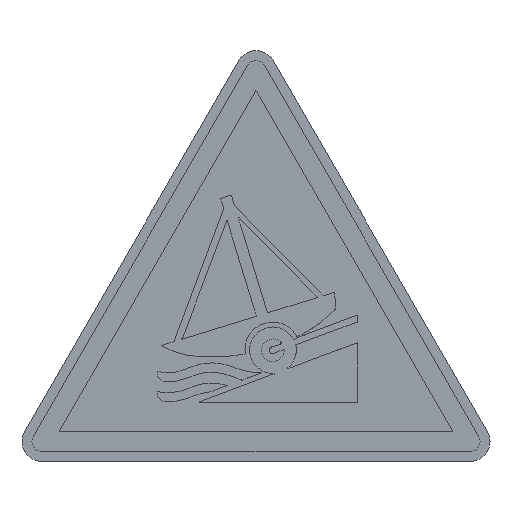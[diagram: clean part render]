
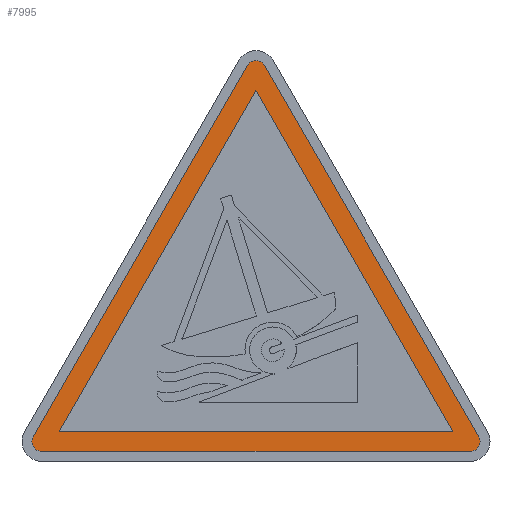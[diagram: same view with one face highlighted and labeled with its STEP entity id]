
A CAD part, top view. The second image highlights one B-rep face of the part: STEP entity #7995.
In plain terms, the highlighted planar face has unit normal (0, 0, 1).
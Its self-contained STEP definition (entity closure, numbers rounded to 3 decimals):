
#91 = EDGE_CURVE ( 'NONE', #6545, #6677, #5192, .T. ) ;
#361 = LINE ( 'NONE', #1221, #1022 ) ;
#419 = CARTESIAN_POINT ( 'NONE',  ( -21.536, 2., 0.22 ) ) ;
#476 = CARTESIAN_POINT ( 'NONE',  ( -21.536, 1., 0.22 ) ) ;
#1022 = VECTOR ( 'NONE', #2777, 1000. ) ;
#1070 = ORIENTED_EDGE ( 'NONE', *, *, #2155, .T. ) ;
#1154 = DIRECTION ( 'NONE',  ( 1., 0., 0. ) ) ;
#1221 = CARTESIAN_POINT ( 'NONE',  ( 22.402, 2.5, 0.22 ) ) ;
#1224 = LINE ( 'NONE', #2831, #5204 ) ;
#1310 = ORIENTED_EDGE ( 'NONE', *, *, #2515, .T. ) ;
#1389 = EDGE_CURVE ( 'NONE', #8855, #6545, #3611, .T. ) ;
#1653 = CARTESIAN_POINT ( 'NONE',  ( 19.804, 3., 0.22 ) ) ;
#1846 = CARTESIAN_POINT ( 'NONE',  ( -19.804, 3., 0.22 ) ) ;
#1851 = CIRCLE ( 'NONE', #2981, 1. ) ;
#2155 = EDGE_CURVE ( 'NONE', #6677, #7036, #1851, .T. ) ;
#2326 = DIRECTION ( 'NONE',  ( -0.5, 0.866, 0. ) ) ;
#2395 = DIRECTION ( 'NONE',  ( 1., 0., 0. ) ) ;
#2404 = LINE ( 'NONE', #7268, #7610 ) ;
#2426 = EDGE_CURVE ( 'NONE', #8246, #8855, #361, .T. ) ;
#2509 = AXIS2_PLACEMENT_3D ( 'NONE', #7109, #2924, #2395 ) ;
#2515 = EDGE_CURVE ( 'NONE', #7185, #8246, #6922, .T. ) ;
#2715 = DIRECTION ( 'NONE',  ( 0., 0., 1. ) ) ;
#2777 = DIRECTION ( 'NONE',  ( -0.5, 0.866, 0. ) ) ;
#2831 = CARTESIAN_POINT ( 'NONE',  ( -21.536, 1., 0.22 ) ) ;
#2924 = DIRECTION ( 'NONE',  ( 0., 0., 1. ) ) ;
#2981 = AXIS2_PLACEMENT_3D ( 'NONE', #419, #9902, #5078 ) ;
#3474 = CARTESIAN_POINT ( 'NONE',  ( 19.804, 3., 0.22 ) ) ;
#3495 = ORIENTED_EDGE ( 'NONE', *, *, #3557, .F. ) ;
#3557 = EDGE_CURVE ( 'NONE', #6793, #4636, #2404, .T. ) ;
#3611 = CIRCLE ( 'NONE', #7536, 1. ) ;
#3650 = VERTEX_POINT ( 'NONE', #3474 ) ;
#3732 = ORIENTED_EDGE ( 'NONE', *, *, #7673, .F. ) ;
#4483 = CARTESIAN_POINT ( 'NONE',  ( 0.866, 39.801, 0.22 ) ) ;
#4520 = CARTESIAN_POINT ( 'NONE',  ( -22.402, 2.5, 0.22 ) ) ;
#4636 = VERTEX_POINT ( 'NONE', #7367 ) ;
#4691 = EDGE_LOOP ( 'NONE', ( #6423, #3495, #3732 ) ) ;
#4775 = CARTESIAN_POINT ( 'NONE',  ( 22.402, 2.5, 0.22 ) ) ;
#5032 = EDGE_LOOP ( 'NONE', ( #8049, #5654, #1070, #9794, #1310, #9615 ) ) ;
#5078 = DIRECTION ( 'NONE',  ( 1., 0., 0. ) ) ;
#5140 = CARTESIAN_POINT ( 'NONE',  ( -0.866, 39.801, 0.22 ) ) ;
#5192 = LINE ( 'NONE', #5140, #8636 ) ;
#5204 = VECTOR ( 'NONE', #5936, 1000. ) ;
#5627 = CARTESIAN_POINT ( 'NONE',  ( -0.866, 39.801, 0.22 ) ) ;
#5654 = ORIENTED_EDGE ( 'NONE', *, *, #91, .T. ) ;
#5869 = DIRECTION ( 'NONE',  ( 1., 0., 0. ) ) ;
#5936 = DIRECTION ( 'NONE',  ( 1., 0., 0. ) ) ;
#6057 = PLANE ( 'NONE',  #9638 ) ;
#6423 = ORIENTED_EDGE ( 'NONE', *, *, #8534, .F. ) ;
#6545 = VERTEX_POINT ( 'NONE', #5627 ) ;
#6677 = VERTEX_POINT ( 'NONE', #4520 ) ;
#6734 = FACE_OUTER_BOUND ( 'NONE', #5032, .T. ) ;
#6793 = VERTEX_POINT ( 'NONE', #9531 ) ;
#6922 = CIRCLE ( 'NONE', #2509, 1. ) ;
#7036 = VERTEX_POINT ( 'NONE', #476 ) ;
#7109 = CARTESIAN_POINT ( 'NONE',  ( 21.536, 2., 0.22 ) ) ;
#7115 = DIRECTION ( 'NONE',  ( -0.5, -0.866, 0. ) ) ;
#7185 = VERTEX_POINT ( 'NONE', #9518 ) ;
#7268 = CARTESIAN_POINT ( 'NONE',  ( 0., 37.301, 0.22 ) ) ;
#7367 = CARTESIAN_POINT ( 'NONE',  ( -19.804, 3., 0.22 ) ) ;
#7453 = CARTESIAN_POINT ( 'NONE',  ( 0., 39.301, 0.22 ) ) ;
#7536 = AXIS2_PLACEMENT_3D ( 'NONE', #8189, #2715, #5869 ) ;
#7600 = DIRECTION ( 'NONE',  ( 1., 0., 0. ) ) ;
#7610 = VECTOR ( 'NONE', #7115, 1000. ) ;
#7654 = FACE_BOUND ( 'NONE', #4691, .T. ) ;
#7673 = EDGE_CURVE ( 'NONE', #3650, #6793, #7946, .T. ) ;
#7904 = EDGE_CURVE ( 'NONE', #7036, #7185, #1224, .T. ) ;
#7946 = LINE ( 'NONE', #1653, #8630 ) ;
#7995 = ADVANCED_FACE ( 'NONE', ( #6734, #7654 ), #6057, .T. ) ;
#8049 = ORIENTED_EDGE ( 'NONE', *, *, #1389, .T. ) ;
#8189 = CARTESIAN_POINT ( 'NONE',  ( 0., 39.301, 0.22 ) ) ;
#8246 = VERTEX_POINT ( 'NONE', #4775 ) ;
#8425 = DIRECTION ( 'NONE',  ( 0., 0., 1. ) ) ;
#8534 = EDGE_CURVE ( 'NONE', #4636, #3650, #8857, .T. ) ;
#8630 = VECTOR ( 'NONE', #2326, 1000. ) ;
#8636 = VECTOR ( 'NONE', #9248, 1000. ) ;
#8855 = VERTEX_POINT ( 'NONE', #4483 ) ;
#8857 = LINE ( 'NONE', #1846, #9494 ) ;
#9248 = DIRECTION ( 'NONE',  ( -0.5, -0.866, 0. ) ) ;
#9494 = VECTOR ( 'NONE', #1154, 1000. ) ;
#9518 = CARTESIAN_POINT ( 'NONE',  ( 21.536, 1., 0.22 ) ) ;
#9531 = CARTESIAN_POINT ( 'NONE',  ( 0., 37.301, 0.22 ) ) ;
#9615 = ORIENTED_EDGE ( 'NONE', *, *, #2426, .T. ) ;
#9638 = AXIS2_PLACEMENT_3D ( 'NONE', #7453, #8425, #7600 ) ;
#9794 = ORIENTED_EDGE ( 'NONE', *, *, #7904, .T. ) ;
#9902 = DIRECTION ( 'NONE',  ( 0., 0., 1. ) ) ;
